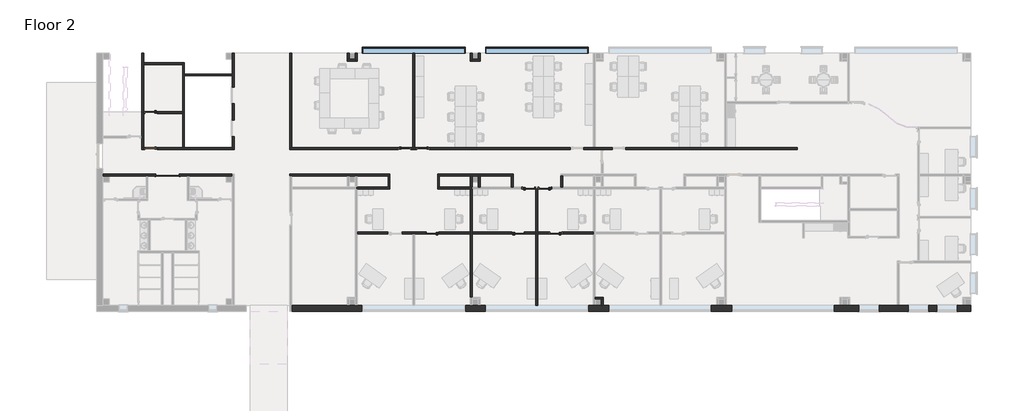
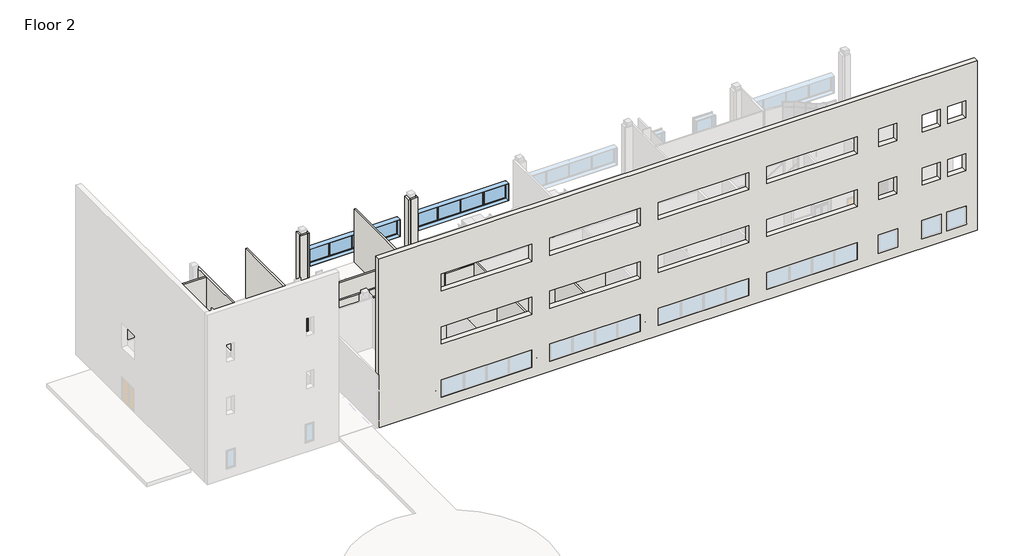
# One storey, part 2 of 6: 35 walls, 10 doors, 2 windows.
"""IFC4 building model written with IfcOpenShell, lengths in millimetres."""

from ifc_helpers import new_model, si_unit, frame, origin, place, context, project, spatial, polyline, outline, extrude, faceted_brep, transform, mapped, element, save
from components import door_f1125a27, door_36f17018, door_4cfbdd5f, door_4a7c4c71, window_casement_multi_sash_horizontal_25_x_5ft_0e5d08e3

model = new_model("IFC4")

# Units and contexts
model_context = context("Model", 3, world=origin())
ifc_project = project(units=[si_unit("LENGTHUNIT", "METRE", prefix="MILLI")], contexts=[model_context])

# Site, building, storey
site = spatial("IfcSite", under=ifc_project)
building = spatial("IfcBuilding", under=site)
storey = spatial("IfcBuildingStorey", under=building, Name="Floor 2", Elevation=5486.4)

# Doors
placement = place(None, origin())
door_shape = door_f1125a27(model_context)
element("IfcDoor", 1, ObjectType="Dbl Acting Dbl Glass 1 : 68\" x 84\"", at=placement, inside=storey, context=model_context, shape_type="MappedRepresentation", body=[
    mapped(door_shape, transform((1836.7692024, 48316.361889, 5486.4), x_axis=(-1.0, 0.0, 0.0), y_axis=(0.0, -1.0, 0.0), z_axis=(0.0, 0.0, 1.0))),
])
door_2_shape = door_36f17018(model_context)
element("IfcDoor", 2, ObjectType="Door-Passage-Single-Flush : 36\" x 84\"", at=placement, inside=storey, context=model_context, shape_type="MappedRepresentation", body=[
    mapped(door_2_shape, transform((617.5692024, 50253.111889, 5486.4), x_axis=(-1.0, 0.0, 0.0), y_axis=(0.0, -1.0, 0.0), z_axis=(0.0, 0.0, 1.0))),
])
element("IfcDoor", 3, ObjectType="Door-Passage-Single-Flush : 36\" x 84\"", at=placement, inside=storey, context=model_context, shape_type="MappedRepresentation", body=[
    mapped(door_2_shape, transform((617.5692024, 52945.511889, 5486.4), x_axis=(-1.0, 0.0, 0.0), y_axis=(0.0, -1.0, 0.0), z_axis=(0.0, 0.0, 1.0))),
])
door_3_shape = door_4cfbdd5f(model_context)
element("IfcDoor", 4, ObjectType="Door-Passage-Single-Full_Lite : 36\" x 84\"", at=placement, inside=storey, context=model_context, shape_type="MappedRepresentation", body=[
    mapped(door_3_shape, transform((27871.7692024, 43985.661889, 5486.4), x_axis=(1.0, 0.0, 0.0), y_axis=(0.0, 1.0, 0.0), z_axis=(0.0, 0.0, 1.0))),
])
element("IfcDoor", 5, ObjectType="Door-Passage-Single-Full_Lite : 36\" x 84\"", at=placement, inside=storey, context=model_context, shape_type="MappedRepresentation", body=[
    mapped(door_3_shape, transform((20810.5692024, 50253.111889, 5486.4), x_axis=(-1.0, 0.0, 0.0), y_axis=(0.0, -1.0, 0.0), z_axis=(0.0, 0.0, 1.0))),
])
element("IfcDoor", 6, ObjectType="Door-Passage-Single-Full_Lite : 36\" x 84\"", at=placement, inside=storey, context=model_context, shape_type="MappedRepresentation", body=[
    mapped(door_3_shape, transform((28659.1692024, 47338.461889, 5486.4), x_axis=(1.0, 0.0, 0.0), y_axis=(0.0, 1.0, 0.0), z_axis=(0.0, 0.0, 1.0))),
])
door_4_shape = door_4a7c4c71(model_context)
element("IfcDoor", 7, ObjectType="Door-Passage-Single-Full_Lite : 36\" x 84\"", at=placement, inside=storey, context=model_context, shape_type="MappedRepresentation", body=[
    mapped(door_4_shape, transform((30665.7692024, 43985.661889, 5486.4), x_axis=(-1.0, 0.0, 0.0), y_axis=(0.0, -1.0, 0.0), z_axis=(0.0, 0.0, 1.0))),
])
element("IfcDoor", 8, ObjectType="Door-Passage-Single-Full_Lite : 36\" x 84\"", at=placement, inside=storey, context=model_context, shape_type="MappedRepresentation", body=[
    mapped(door_4_shape, transform((21521.7692024, 43985.661889, 5486.4), x_axis=(-1.0, 0.0, 0.0), y_axis=(0.0, -1.0, 0.0), z_axis=(0.0, 0.0, 1.0))),
])
element("IfcDoor", 9, ObjectType="Door-Passage-Single-Full_Lite : 36\" x 84\"", at=placement, inside=storey, context=model_context, shape_type="MappedRepresentation", body=[
    mapped(door_4_shape, transform((19438.9692024, 50253.111889, 5486.4), x_axis=(1.0, 0.0, 0.0), y_axis=(0.0, 1.0, 0.0), z_axis=(0.0, 0.0, 1.0))),
])
element("IfcDoor", 10, ObjectType="Door-Passage-Single-Full_Lite : 36\" x 84\"", at=placement, inside=storey, context=model_context, shape_type="MappedRepresentation", body=[
    mapped(door_4_shape, transform((29878.3692024, 47338.461889, 5486.4), x_axis=(-1.0, 0.0, 0.0), y_axis=(0.0, -1.0, 0.0), z_axis=(0.0, 0.0, 1.0))),
])

# Walls
element("IfcWall", 11, ObjectType="Interior - 5 1/2\" Partition (1-hr)", at=placement, inside=storey, context=model_context, shape_type="Brep", body=[
    faceted_brep([(973.1692024, 48360.811889, 7620.0), (973.1692024, 48360.811889, 5486.4), (-2965.7977165, 48360.811889, 5486.4), (-2965.7977165, 48360.811889, 9906.0), (6637.3692024, 48360.811889, 9906.0), (6637.3692024, 48360.811889, 5486.4), (2700.3692024, 48360.811889, 5486.4), (2700.3692024, 48360.811889, 7620.0), (-2965.7977165, 48221.111889, 5486.4), (242.9192024, 48221.111889, 5486.4), (382.6192024, 48221.111889, 5486.4), (973.1692024, 48221.111889, 5486.4), (973.1692024, 48221.111889, 7620.0), (2700.3692024, 48221.111889, 7620.0), (2700.3692024, 48221.111889, 5486.4), (3290.9192024, 48221.111889, 5486.4), (3430.6192024, 48221.111889, 5486.4), (6637.3692024, 48221.111889, 5486.4), (6637.3692024, 48221.111889, 9906.0), (3430.6192024, 48221.111889, 9906.0), (3290.9192024, 48221.111889, 9906.0), (382.6192024, 48221.111889, 9906.0), (242.9192024, 48221.111889, 9906.0), (-2965.7977165, 48221.111889, 9906.0)], [[[0, 1, 2, 3, 4, 5, 6, 7]], [[8, 9, 10, 11, 12, 13, 14, 15, 16, 17, 18, 19, 20, 21, 22, 23]], [[2, 1, 11, 10, 9, 8]], [[6, 5, 17, 16, 15, 14]], [[5, 4, 18, 17]], [[3, 2, 8, 23]], [[4, 3, 23, 22, 21, 20, 19, 18]], [[12, 11, 1, 0]], [[13, 12, 0, 7]], [[14, 13, 7, 6]]]),
])
element("IfcWall", 12, ObjectType="Interior - 5 1/2\" Partition (1-hr)", at=placement, inside=storey, context=model_context, shape_type="Brep", body=[
    faceted_brep([(6637.3692024, 53605.911889, 7645.4), (6637.3692024, 53605.911889, 5486.4), (6637.3692024, 52399.411889, 5486.4), (6637.3692024, 52399.411889, 7645.4), (6637.3692024, 51167.511889, 7645.4), (6637.3692024, 51167.511889, 5486.4), (6637.3692024, 50329.311889, 5486.4), (6637.3692024, 50189.611889, 5486.4), (6637.3692024, 50189.611889, 9906.0), (6637.3692024, 50329.311889, 9906.0), (6637.3692024, 55676.011889, 9906.0), (6637.3692024, 55815.711889, 9906.0), (6637.3692024, 57366.699389, 9906.0), (6637.3692024, 57366.699389, 5486.4), (6637.3692024, 55815.711889, 5486.4), (6637.3692024, 55676.011889, 5486.4), (6637.3692024, 54837.811889, 5486.4), (6637.3692024, 54837.811889, 7645.4), (6777.0692024, 52399.411889, 5486.4), (6777.0692024, 53605.911889, 5486.4), (6777.0692024, 53605.911889, 7645.4), (6777.0692024, 54837.811889, 7645.4), (6777.0692024, 54837.811889, 5486.4), (6777.0692024, 57366.699389, 5486.4), (6777.0692024, 57366.699389, 9906.0), (6777.0692024, 50189.611889, 9906.0), (6777.0692024, 50189.611889, 5486.4), (6777.0692024, 51167.511889, 5486.4), (6777.0692024, 51167.511889, 7645.4), (6777.0692024, 52399.411889, 7645.4)], [[[0, 1, 2, 3, 4, 5, 6, 7, 8, 9, 10, 11, 12, 13, 14, 15, 16, 17]], [[18, 19, 20, 21, 22, 23, 24, 25, 26, 27, 28, 29]], [[7, 6, 5, 27, 26]], [[2, 1, 19, 18]], [[16, 15, 14, 13, 23, 22]], [[8, 7, 26, 25]], [[13, 12, 24, 23]], [[12, 11, 10, 9, 8, 25, 24]], [[28, 27, 5, 4]], [[29, 28, 4, 3]], [[18, 29, 3, 2]], [[20, 19, 1, 0]], [[21, 20, 0, 17]], [[22, 21, 17, 16]]]),
])
element("IfcWall", 13, ObjectType="Interior - 5 1/2\" Partition (1-hr)", at=placement, inside=storey, context=model_context, shape_type="Brep", body=[
    faceted_brep([(109.5692024, 50329.311889, 7721.6), (109.5692024, 50329.311889, 5486.4), (77.8192024, 50329.311889, 5486.4), (-61.8807976, 50329.311889, 5486.4), (-61.8807976, 50329.311889, 9906.0), (77.8192024, 50329.311889, 9906.0), (2954.3692024, 50329.311889, 9906.0), (3094.0692024, 50329.311889, 9906.0), (6637.3692024, 50329.311889, 9906.0), (6637.3692024, 50329.311889, 5486.4), (3094.0692024, 50329.311889, 5486.4), (2954.3692024, 50329.311889, 5486.4), (1125.5692024, 50329.311889, 5486.4), (1125.5692024, 50329.311889, 7721.6), (-61.8807976, 50189.611889, 5486.4), (109.5692024, 50189.611889, 5486.4), (109.5692024, 50189.611889, 7721.6), (1125.5692024, 50189.611889, 7721.6), (1125.5692024, 50189.611889, 5486.4), (6637.3692024, 50189.611889, 5486.4), (6637.3692024, 50189.611889, 9906.0), (-61.8807976, 50189.611889, 9906.0)], [[[0, 1, 2, 3, 4, 5, 6, 7, 8, 9, 10, 11, 12, 13]], [[14, 15, 16, 17, 18, 19, 20, 21]], [[3, 2, 1, 15, 14]], [[12, 11, 10, 9, 19, 18]], [[9, 8, 20, 19]], [[4, 3, 14, 21]], [[8, 7, 6, 5, 4, 21, 20]], [[16, 15, 1, 0]], [[17, 16, 0, 13]], [[18, 17, 13, 12]]]),
])
element("IfcWall", 14, ObjectType="Interior - 5 1/2\" Partition (1-hr)", at=placement, inside=storey, context=model_context, shape_type="Brep", body=[
    faceted_brep([(77.8192024, 50329.311889, 5486.4), (77.8192024, 52882.011889, 5486.4), (77.8192024, 53021.711889, 5486.4), (77.8192024, 56514.211889, 5486.4), (77.8192024, 56653.911889, 5486.4), (77.8192024, 57366.699389, 5486.4), (77.8192024, 57366.699389, 9906.0), (77.8192024, 56653.911889, 9906.0), (77.8192024, 56514.211889, 9906.0), (77.8192024, 53021.711889, 9906.0), (77.8192024, 52882.011889, 9906.0), (77.8192024, 50329.311889, 9906.0), (-61.8807976, 50329.311889, 5486.4), (-61.8807976, 50329.311889, 9906.0), (-61.8807976, 52970.911889, 9906.0), (-61.8807976, 56653.911889, 9906.0), (-61.8807976, 57366.699389, 9906.0), (-61.8807976, 57366.699389, 5486.4), (-61.8807976, 51192.911889, 5486.4), (-61.8807976, 51053.211889, 5486.4)], [[[0, 1, 2, 3, 4, 5, 6, 7, 8, 9, 10, 11]], [[12, 13, 14, 15, 16, 17, 18, 19]], [[5, 4, 3, 2, 1, 0, 12, 19, 18, 17]], [[0, 11, 13, 12]], [[6, 5, 17, 16]], [[7, 6, 16, 15]], [[11, 10, 9, 8, 7, 15, 14, 13]]]),
])
element("IfcWall", 15, ObjectType="Interior - 5 1/2\" Partition (1-hr)", at=placement, inside=storey, context=model_context, shape_type="Brep", body=[
    faceted_brep([(3094.0692024, 50329.311889, 5486.4), (3094.0692024, 55676.011889, 5486.4), (3094.0692024, 55815.711889, 5486.4), (3094.0692024, 56653.911889, 5486.4), (3094.0692024, 56653.911889, 9906.0), (3094.0692024, 55815.711889, 9906.0), (3094.0692024, 55676.011889, 9906.0), (3094.0692024, 50329.311889, 9906.0), (2954.3692024, 50329.311889, 5486.4), (2954.3692024, 50329.311889, 9906.0), (2954.3692024, 52882.011889, 9906.0), (2954.3692024, 53021.711889, 9906.0), (2954.3692024, 56514.211889, 9906.0), (2954.3692024, 56653.911889, 9906.0), (2954.3692024, 56653.911889, 5486.4), (2954.3692024, 56514.211889, 5486.4), (2954.3692024, 53021.711889, 5486.4), (2954.3692024, 52882.011889, 5486.4)], [[[0, 1, 2, 3, 4, 5, 6, 7]], [[8, 9, 10, 11, 12, 13, 14, 15, 16, 17]], [[3, 2, 1, 0, 8, 17, 16, 15, 14]], [[4, 3, 14, 13]], [[0, 7, 9, 8]], [[7, 6, 5, 4, 13, 12, 11, 10, 9]]]),
])
element("IfcWall", 16, ObjectType="Interior - 5 1/2\" Partition (1-hr)", at=placement, inside=storey, context=model_context, shape_type="SweptSolid", body=[
    extrude(outline(polyline([(77.8192024, 56653.911889), (2954.3692024, 56653.911889), (2954.3692024, 56514.211889), (77.8192024, 56514.211889), (77.8192024, 56653.911889)])), frame((0.0, 0.0, 5486.4), z_axis=(0.0, 0.0, 1.0), x_axis=(1.0, 0.0, 0.0)), (0.0, 0.0, 1.0), 4419.6),
])
element("IfcWall", 17, ObjectType="Interior - 5 1/2\" Partition (1-hr)", at=placement, inside=storey, context=model_context, shape_type="SweptSolid", body=[
    extrude(outline(polyline([(6637.3692024, 55676.011889), (3094.0692024, 55676.011889), (3094.0692024, 55815.711889), (6637.3692024, 55815.711889), (6637.3692024, 55676.011889)])), frame((0.0, 0.0, 5486.4), z_axis=(0.0, 0.0, 1.0), x_axis=(1.0, 0.0, 0.0)), (0.0, 0.0, 1.0), 4419.6),
])
element("IfcWall", 18, ObjectType="Interior - 5 1/2\" Partition (1-hr)", at=placement, inside=storey, context=model_context, shape_type="SweptSolid", body=[
    extrude(outline(polyline([(5486.4, 77.8192024), (5486.4, 109.5692024), (7721.6, 109.5692024), (7721.6, 1125.5692024), (5486.4, 1125.5692024), (5486.4, 2954.3692024), (9906.0, 2954.3692024), (9906.0, 77.8192024), (5486.4, 77.8192024)])), frame((0.0, 52882.011889, 0.0), z_axis=(0.0, 1.0, 0.0), x_axis=(0.0, 0.0, 1.0)), (0.0, 0.0, 1.0), 139.7),
])
element("IfcWall", 19, ObjectType="Interior - 5 1/2\" Partition (1-hr)", at=placement, inside=storey, context=model_context, shape_type="Brep", body=[
    faceted_brep([(10910.9192024, 48360.811889, 5486.4), (10910.9192024, 48360.811889, 9906.0), (18359.4692024, 48360.811889, 9906.0), (18359.4692024, 48360.811889, 5486.4), (10910.9192024, 48221.111889, 5486.4), (11050.6192024, 48221.111889, 5486.4), (15184.4692024, 48221.111889, 5486.4), (15324.1692024, 48221.111889, 5486.4), (15781.3692024, 48221.111889, 5486.4), (15921.0692024, 48221.111889, 5486.4), (18219.7692024, 48221.111889, 5486.4), (18359.4692024, 48221.111889, 5486.4), (18359.4692024, 48221.111889, 9906.0), (18219.7692024, 48221.111889, 9906.0), (15921.0692024, 48221.111889, 9906.0), (15781.3692024, 48221.111889, 9906.0), (15324.1692024, 48221.111889, 9906.0), (15184.4692024, 48221.111889, 9906.0), (10910.9192024, 48221.111889, 9906.0)], [[[0, 1, 2, 3]], [[4, 5, 6, 7, 8, 9, 10, 11, 12, 13, 14, 15, 16, 17, 18]], [[11, 10, 9, 8, 7, 6, 5, 4, 0, 3]], [[4, 18, 1, 0]], [[18, 17, 16, 15, 14, 13, 12, 2, 1]], [[12, 11, 3, 2]]]),
])
element("IfcWall", 20, ObjectType="Interior - 5 1/2\" Partition (1-hr)", at=placement, inside=storey, context=model_context, shape_type="Brep", body=[
    faceted_brep([(48623.5692024, 50189.611889, 9906.0), (48623.5692024, 50189.611889, 5486.4), (48623.5692024, 50329.311889, 5486.4), (48623.5692024, 50329.311889, 9906.0), (43353.0692024, 50329.311889, 5486.4), (43213.3692024, 50329.311889, 5486.4), (35879.1192024, 50329.311889, 5486.4), (35879.1192024, 50329.311889, 7721.6), (34863.1192024, 50329.311889, 7721.6), (34863.1192024, 50329.311889, 5486.4), (33612.1692024, 50329.311889, 5486.4), (33472.4692024, 50329.311889, 5486.4), (32748.5692024, 50329.311889, 5486.4), (32748.5692024, 50329.311889, 7721.6), (31732.5692024, 50329.311889, 7721.6), (31732.5692024, 50329.311889, 5486.4), (21318.5692024, 50329.311889, 5486.4), (21318.5692024, 50329.311889, 7721.6), (20302.5692024, 50329.311889, 7721.6), (20302.5692024, 50329.311889, 5486.4), (20194.6192024, 50329.311889, 5486.4), (20054.9192024, 50329.311889, 5486.4), (19946.9692024, 50329.311889, 5486.4), (19946.9692024, 50329.311889, 7721.6), (18930.9692024, 50329.311889, 7721.6), (18930.9692024, 50329.311889, 5486.4), (11050.6192024, 50329.311889, 5486.4), (10910.9192024, 50329.311889, 5486.4), (10910.9192024, 50329.311889, 9906.0), (11050.6192024, 50329.311889, 9906.0), (33472.4692024, 50329.311889, 9906.0), (33612.1692024, 50329.311889, 9906.0), (43213.3692024, 50329.311889, 9906.0), (43353.0692024, 50329.311889, 9906.0), (34209.0692024, 50189.611889, 9906.0), (34069.3692024, 50189.611889, 9906.0), (10910.9192024, 50189.611889, 9906.0), (10910.9192024, 50189.611889, 5486.4), (18930.9692024, 50189.611889, 5486.4), (18930.9692024, 50189.611889, 7721.6), (19946.9692024, 50189.611889, 7721.6), (19946.9692024, 50189.611889, 5486.4), (20302.5692024, 50189.611889, 5486.4), (20302.5692024, 50189.611889, 7721.6), (21318.5692024, 50189.611889, 7721.6), (21318.5692024, 50189.611889, 5486.4), (31732.5692024, 50189.611889, 5486.4), (31732.5692024, 50189.611889, 7721.6), (32748.5692024, 50189.611889, 7721.6), (32748.5692024, 50189.611889, 5486.4), (34069.3692024, 50189.611889, 5486.4), (34209.0692024, 50189.611889, 5486.4), (34863.1192024, 50189.611889, 5486.4), (34863.1192024, 50189.611889, 7721.6), (35879.1192024, 50189.611889, 7721.6), (35879.1192024, 50189.611889, 5486.4)], [[[0, 1, 2, 3]], [[3, 2, 4, 5, 6, 7, 8, 9, 10, 11, 12, 13, 14, 15, 16, 17, 18, 19, 20, 21, 22, 23, 24, 25, 26, 27, 28, 29, 30, 31, 32, 33]], [[1, 0, 34, 35, 36, 37, 38, 39, 40, 41, 42, 43, 44, 45, 46, 47, 48, 49, 50, 51, 52, 53, 54, 55]], [[2, 1, 55, 6, 5, 4]], [[37, 27, 26, 25, 38]], [[9, 52, 51, 50, 49, 12, 11, 10]], [[41, 22, 21, 20, 19, 42]], [[45, 16, 15, 46]], [[37, 36, 28, 27]], [[36, 35, 34, 0, 3, 33, 32, 31, 30, 29, 28]], [[8, 53, 52, 9]], [[53, 8, 7, 54]], [[54, 7, 6, 55]], [[40, 23, 22, 41]], [[23, 40, 39, 24]], [[24, 39, 38, 25]], [[18, 43, 42, 19]], [[43, 18, 17, 44]], [[44, 17, 16, 45]], [[48, 13, 12, 49]], [[13, 48, 47, 14]], [[14, 47, 46, 15]]]),
])
element("IfcWall", 21, ObjectType="Interior - 5 1/2\" Partition (1-hr)", at=placement, inside=storey, context=model_context, shape_type="SweptSolid", body=[
    extrude(outline(polyline([(11050.6192024, 57366.699389), (11050.6192024, 50329.311889), (10910.9192024, 50329.311889), (10910.9192024, 57366.699389), (11050.6192024, 57366.699389)])), frame((0.0, 0.0, 5486.4), z_axis=(0.0, 0.0, 1.0), x_axis=(1.0, 0.0, 0.0)), (0.0, 0.0, 1.0), 4419.6),
])
element("IfcWall", 22, ObjectType="Interior - 5 1/2\" Partition (1-hr)", at=placement, inside=storey, context=model_context, shape_type="Brep", body=[
    faceted_brep([(15781.3692024, 57366.699389, 5486.4), (15781.3692024, 57365.111889, 5486.4), (15781.3692024, 56907.911889, 5486.4), (15781.3692024, 56768.211889, 5486.4), (15781.3692024, 56768.211889, 9906.0), (15781.3692024, 56907.911889, 9906.0), (15781.3692024, 57366.699389, 9906.0), (15921.0692024, 57366.699389, 5486.4), (15921.0692024, 57366.699389, 9906.0), (15921.0692024, 56768.211889, 9906.0), (15921.0692024, 56768.211889, 5486.4)], [[[0, 1, 2, 3, 4, 5, 6]], [[7, 8, 9, 10]], [[3, 2, 1, 0, 7, 10]], [[4, 3, 10, 9]], [[0, 6, 8, 7]], [[6, 5, 4, 9, 8]]]),
])
element("IfcWall", 23, ObjectType="Interior - 5 1/2\" Partition (1-hr)", at=placement, inside=storey, context=model_context, shape_type="Brep", body=[
    faceted_brep([(15781.3692024, 56907.911889, 5486.4), (15324.1692024, 56907.911889, 5486.4), (15184.4692024, 56907.911889, 5486.4), (15184.4692024, 56907.911889, 9906.0), (15324.1692024, 56907.911889, 9906.0), (15781.3692024, 56907.911889, 9906.0), (15781.3692024, 56768.211889, 5486.4), (15781.3692024, 56768.211889, 9906.0), (15184.4692024, 56768.211889, 9906.0), (15184.4692024, 56768.211889, 5486.4)], [[[0, 1, 2, 3, 4, 5]], [[6, 7, 8, 9]], [[2, 1, 0, 6, 9]], [[3, 2, 9, 8]], [[0, 5, 7, 6]], [[5, 4, 3, 8, 7]]]),
])
element("IfcWall", 24, ObjectType="Interior - 5 1/2\" Partition (1-hr)", at=placement, inside=storey, context=model_context, shape_type="Brep", body=[
    faceted_brep([(15324.1692024, 56907.911889, 5486.4), (15324.1692024, 57365.111889, 5486.4), (15324.1692024, 57366.699389, 5486.4), (15324.1692024, 57366.699389, 9906.0), (15324.1692024, 56907.911889, 9906.0), (15184.4692024, 56907.911889, 5486.4), (15184.4692024, 56907.911889, 9906.0), (15184.4692024, 57366.699389, 9906.0), (15184.4692024, 57366.699389, 5486.4)], [[[0, 1, 2, 3, 4]], [[5, 6, 7, 8]], [[2, 1, 0, 5, 8]], [[0, 4, 6, 5]], [[3, 2, 8, 7]], [[4, 3, 7, 6]]]),
])
element("IfcWall", 25, ObjectType="Interior - 5 1/2\" Partition (1-hr)", at=placement, inside=storey, context=model_context, shape_type="Brep", body=[
    faceted_brep([(24468.1692024, 47401.961889, 5486.4), (24468.1692024, 47763.911889, 5486.4), (24468.1692024, 48221.111889, 5486.4), (24468.1692024, 48221.111889, 9906.0), (24468.1692024, 47401.961889, 9906.0), (24328.4692024, 47401.961889, 5486.4), (24328.4692024, 47401.961889, 9906.0), (24328.4692024, 48221.111889, 9906.0), (24328.4692024, 48221.111889, 5486.4), (24398.3192024, 47401.961889, 5486.4), (24398.3192024, 47401.961889, 9906.0)], [[[0, 1, 2, 3, 4]], [[5, 6, 7, 8]], [[2, 1, 0, 9, 5, 8]], [[0, 4, 10, 6, 5, 9]], [[3, 2, 8, 7]], [[4, 3, 7, 6, 10]]]),
])
element("IfcWall", 26, ObjectType="Interior - 5 1/2\" Partition (1-hr)", at=placement, inside=storey, context=model_context, shape_type="Brep", body=[
    faceted_brep([(25065.0692024, 47401.961889, 5486.4), (25065.0692024, 48221.111889, 5486.4), (25065.0692024, 48221.111889, 9906.0), (25065.0692024, 47401.961889, 9906.0), (24925.3692024, 47401.961889, 5486.4), (24925.3692024, 47401.961889, 9906.0), (24925.3692024, 48221.111889, 9906.0), (24925.3692024, 48221.111889, 5486.4), (24925.3692024, 47763.911889, 5486.4)], [[[0, 1, 2, 3]], [[4, 5, 6, 7, 8]], [[1, 0, 4, 8, 7]], [[0, 3, 5, 4]], [[2, 1, 7, 6]], [[3, 2, 6, 5]]]),
])
element("IfcWall", 27, ObjectType="Interior - 5 1/2\" Partition (1-hr)", at=placement, inside=storey, context=model_context, shape_type="SweptSolid", body=[
    extrude(outline(polyline([(18359.4692024, 48221.111889), (18359.4692024, 47401.961889), (18219.7692024, 47401.961889), (18219.7692024, 48221.111889), (18359.4692024, 48221.111889)])), frame((0.0, 0.0, 5486.4), z_axis=(0.0, 0.0, 1.0), x_axis=(1.0, 0.0, 0.0)), (0.0, 0.0, 1.0), 4419.6),
])
element("IfcWall", 28, ObjectType="Interior - 5 1/2\" Partition (1-hr)", at=placement, inside=storey, context=model_context, shape_type="SweptSolid", body=[
    extrude(outline(polyline([(22029.7692024, 48221.111889), (22029.7692024, 47401.961889), (21890.0692024, 47401.961889), (21890.0692024, 48221.111889), (22029.7692024, 48221.111889)])), frame((0.0, 0.0, 5486.4), z_axis=(0.0, 0.0, 1.0), x_axis=(1.0, 0.0, 0.0)), (0.0, 0.0, 1.0), 4419.6),
])
element("IfcWall", 29, ObjectType="Interior - 5 1/2\" Partition (1-hr)", at=placement, inside=storey, context=model_context, shape_type="SweptSolid", body=[
    extrude(outline(polyline([(27503.4692024, 48221.111889), (27503.4692024, 47401.961889), (27363.7692024, 47401.961889), (27363.7692024, 48221.111889), (27503.4692024, 48221.111889)])), frame((0.0, 0.0, 5486.4), z_axis=(0.0, 0.0, 1.0), x_axis=(1.0, 0.0, 0.0)), (0.0, 0.0, 1.0), 4419.6),
])
element("IfcWall", 30, ObjectType="Interior - 5 1/2\" Partition (1-hr)", at=placement, inside=storey, context=model_context, shape_type="SweptSolid", body=[
    extrude(outline(polyline([(31173.7692024, 48221.111889), (31173.7692024, 47401.961889), (31034.0692024, 47401.961889), (31034.0692024, 48221.111889), (31173.7692024, 48221.111889)])), frame((0.0, 0.0, 5486.4), z_axis=(0.0, 0.0, 1.0), x_axis=(1.0, 0.0, 0.0)), (0.0, 0.0, 1.0), 4419.6),
])
element("IfcWall", 31, ObjectType="Interior - 5 1/2\" Partition (1-hr)", at=placement, inside=storey, context=model_context, shape_type="Brep", body=[
    faceted_brep([(33612.1692024, 39077.111889, 5486.4), (34069.3692024, 39077.111889, 5486.4), (34209.0692024, 39077.111889, 5486.4), (34209.0692024, 39077.111889, 9906.0), (34069.3692024, 39077.111889, 9906.0), (33612.1692024, 39077.111889, 9906.0), (33612.1692024, 39216.811889, 5486.4), (33612.1692024, 39216.811889, 9906.0), (34209.0692024, 39216.811889, 9906.0), (34209.0692024, 39216.811889, 5486.4)], [[[0, 1, 2, 3, 4, 5]], [[6, 7, 8, 9]], [[2, 1, 0, 6, 9]], [[3, 2, 9, 8]], [[0, 5, 7, 6]], [[5, 4, 3, 8, 7]]]),
])
element("IfcWall", 32, ObjectType="Interior - 5 1/2\" Partition (1-hr)", at=placement, inside=storey, context=model_context, shape_type="Brep", body=[
    faceted_brep([(34069.3692024, 39077.111889, 5486.4), (34069.3692024, 38619.911889, 5486.4), (34069.3692024, 38618.324389, 5486.4), (34069.3692024, 38618.324389, 9906.0), (34069.3692024, 39077.111889, 9906.0), (34209.0692024, 39077.111889, 5486.4), (34209.0692024, 39077.111889, 9906.0), (34209.0692024, 38618.324389, 9906.0), (34209.0692024, 38618.324389, 5486.4)], [[[0, 1, 2, 3, 4]], [[5, 6, 7, 8]], [[2, 1, 0, 5, 8]], [[0, 4, 6, 5]], [[3, 2, 8, 7]], [[4, 3, 7, 6]]]),
])
element("IfcWall", 33, ObjectType="Interior - 5 1/2\" Partition (1-hr)", at=placement, inside=storey, context=model_context, shape_type="Brep", body=[
    faceted_brep([(24328.4692024, 57366.699389, 5486.4), (24328.4692024, 56768.211889, 5486.4), (24328.4692024, 56768.211889, 9906.0), (24328.4692024, 57366.699389, 9906.0), (24468.1692024, 57366.699389, 5486.4), (24468.1692024, 57366.699389, 9906.0), (24468.1692024, 56907.911889, 9906.0), (24468.1692024, 56768.211889, 9906.0), (24468.1692024, 56768.211889, 5486.4), (24468.1692024, 56907.911889, 5486.4), (24468.1692024, 57365.111889, 5486.4)], [[[0, 1, 2, 3]], [[4, 5, 6, 7, 8, 9, 10]], [[1, 0, 4, 10, 9, 8]], [[2, 1, 8, 7]], [[0, 3, 5, 4]], [[3, 2, 7, 6, 5]]]),
])
element("IfcWall", 34, ObjectType="Interior - 5 1/2\" Partition (1-hr)", at=placement, inside=storey, context=model_context, shape_type="Brep", body=[
    faceted_brep([(24468.1692024, 56768.211889, 5486.4), (25065.0692024, 56768.211889, 5486.4), (25065.0692024, 56768.211889, 9906.0), (24468.1692024, 56768.211889, 9906.0), (24468.1692024, 56907.911889, 5486.4), (24468.1692024, 56907.911889, 9906.0), (24925.3692024, 56907.911889, 9906.0), (25065.0692024, 56907.911889, 9906.0), (25065.0692024, 56907.911889, 5486.4), (24925.3692024, 56907.911889, 5486.4)], [[[0, 1, 2, 3]], [[4, 5, 6, 7, 8, 9]], [[1, 0, 4, 9, 8]], [[2, 1, 8, 7]], [[0, 3, 5, 4]], [[3, 2, 7, 6, 5]]]),
])
element("IfcWall", 35, ObjectType="Interior - 5 1/2\" Partition (1-hr)", at=placement, inside=storey, context=model_context, shape_type="Brep", body=[
    faceted_brep([(25065.0692024, 56907.911889, 5486.4), (25065.0692024, 57366.699389, 5486.4), (25065.0692024, 57366.699389, 9906.0), (25065.0692024, 56907.911889, 9906.0), (24925.3692024, 56907.911889, 5486.4), (24925.3692024, 56907.911889, 9906.0), (24925.3692024, 57366.699389, 9906.0), (24925.3692024, 57366.699389, 5486.4), (24925.3692024, 57365.111889, 5486.4)], [[[0, 1, 2, 3]], [[4, 5, 6, 7, 8]], [[1, 0, 4, 8, 7]], [[0, 3, 5, 4]], [[2, 1, 7, 6]], [[3, 2, 6, 5]]]),
])
element("IfcWall", 36, ObjectType="Interior - 5 1/2\" Partition (1-hr)", at=placement, inside=storey, context=model_context, shape_type="Brep", body=[
    faceted_brep([(24328.4692024, 47262.261889, 10210.8), (24328.4692024, 44049.161889, 10210.8), (24328.4692024, 43909.461889, 10210.8), (24328.4692024, 39216.811889, 10210.8), (24468.1692024, 39216.811889, 10210.8), (24468.1692024, 43909.461889, 10210.8), (24468.1692024, 44049.161889, 10210.8), (24468.1692024, 47262.261889, 10210.8), (24468.1692024, 47262.261889, 5486.4), (24468.1692024, 39216.811889, 9906.0), (24468.1692024, 39216.811889, 5486.4), (24468.1692024, 43909.461889, 5486.4), (24468.1692024, 44049.161889, 5486.4), (24328.4692024, 47262.261889, 5486.4), (24328.4692024, 44049.161889, 5486.4), (24328.4692024, 43909.461889, 5486.4), (24328.4692024, 39216.811889, 5486.4), (24328.4692024, 39216.811889, 9906.0), (24398.3192024, 47262.261889, 5486.4)], [[[0, 1, 2, 3, 4, 5, 6, 7]], [[8, 7, 6, 5, 4, 9, 10, 11, 12]], [[13, 14, 15, 16, 17, 3, 2, 1, 0]], [[16, 15, 14, 13, 18, 8, 12, 11, 10]], [[13, 0, 7, 8, 18]], [[3, 17, 16, 10, 9, 4]]]),
])
element("IfcWall", 37, ObjectType="Interior - 5 1/2\" Partition (1-hr)", at=placement, inside=storey, context=model_context, shape_type="Brep", body=[
    faceted_brep([(29198.9192024, 47262.261889, 5486.4), (29198.9192024, 44049.161889, 5486.4), (29198.9192024, 43909.461889, 5486.4), (29198.9192024, 38618.324389, 5486.4), (29198.9192024, 38618.324389, 10210.8), (29198.9192024, 43909.461889, 10210.8), (29198.9192024, 44049.161889, 10210.8), (29198.9192024, 47262.261889, 10210.8), (29338.6192024, 47262.261889, 5486.4), (29338.6192024, 47262.261889, 10210.8), (29338.6192024, 44049.161889, 10210.8), (29338.6192024, 43909.461889, 10210.8), (29338.6192024, 38618.324389, 10210.8), (29338.6192024, 38618.324389, 5486.4), (29338.6192024, 43909.461889, 5486.4), (29338.6192024, 44049.161889, 5486.4)], [[[0, 1, 2, 3, 4, 5, 6, 7]], [[8, 9, 10, 11, 12, 13, 14, 15]], [[3, 2, 1, 0, 8, 15, 14, 13]], [[7, 6, 5, 4, 12, 11, 10, 9]], [[0, 7, 9, 8]], [[4, 3, 13, 12]]]),
])
element("IfcWall", 38, ObjectType="Interior - 5 1/2\" Partition (1-hr)", at=placement, inside=storey, context=model_context, shape_type="SweptSolid", body=[
    extrude(outline(polyline([(7721.6, 28379.7692024), (5486.4, 28379.7692024), (5486.4, 29198.9192024), (10210.8, 29198.9192024), (10210.8, 24468.1692024), (5486.4, 24468.1692024), (5486.4, 27363.7692024), (7721.6, 27363.7692024), (7721.6, 28379.7692024)])), frame((0.0, 43909.461889, 0.0), z_axis=(0.0, 1.0, 0.0), x_axis=(0.0, 0.0, 1.0)), (0.0, 0.0, 1.0), 139.7),
])
element("IfcWall", 39, ObjectType="Interior - 5 1/2\" Partition (1-hr)", at=placement, inside=storey, context=model_context, shape_type="SweptSolid", body=[
    extrude(outline(polyline([(5486.4, 29338.6192024), (5486.4, 30157.7692024), (7721.6, 30157.7692024), (7721.6, 31173.7692024), (5486.4, 31173.7692024), (5486.4, 33472.4692024), (10210.8, 33472.4692024), (10210.8, 29338.6192024), (5486.4, 29338.6192024)])), frame((0.0, 43909.461889, 0.0), z_axis=(0.0, 1.0, 0.0), x_axis=(0.0, 0.0, 1.0)), (0.0, 0.0, 1.0), 139.7),
])
element("IfcWall", 40, ObjectType="Interior - 5 1/2\" Partition (1-hr)", at=placement, inside=storey, context=model_context, shape_type="SweptSolid", body=[
    extrude(outline(polyline([(20194.6192024, 57366.699389), (20194.6192024, 50329.311889), (20054.9192024, 50329.311889), (20054.9192024, 57366.699389), (20194.6192024, 57366.699389)])), frame((0.0, 0.0, 5486.4), z_axis=(0.0, 0.0, 1.0), x_axis=(1.0, 0.0, 0.0)), (0.0, 0.0, 1.0), 4724.4),
])
element("IfcWall", 41, ObjectType="Interior - 5 1/2\" Partition (1-hr)", at=placement, inside=storey, context=model_context, shape_type="Brep", body=[
    faceted_brep([(15921.0692024, 43909.461889, 10210.8), (20054.9192024, 43909.461889, 10210.8), (20194.6192024, 43909.461889, 10210.8), (24328.4692024, 43909.461889, 10210.8), (24328.4692024, 44049.161889, 10210.8), (15921.0692024, 44049.161889, 10210.8), (24328.4692024, 44049.161889, 5486.4), (22029.7692024, 44049.161889, 5486.4), (22029.7692024, 44049.161889, 7721.6), (21013.7692024, 44049.161889, 7721.6), (21013.7692024, 44049.161889, 5486.4), (19235.7692024, 44049.161889, 5486.4), (19235.7692024, 44049.161889, 7721.6), (18219.7692024, 44049.161889, 7721.6), (18219.7692024, 44049.161889, 5486.4), (15921.0692024, 44049.161889, 5486.4), (15921.0692024, 43909.461889, 5486.4), (18219.7692024, 43909.461889, 5486.4), (18219.7692024, 43909.461889, 7721.6), (19235.7692024, 43909.461889, 7721.6), (19235.7692024, 43909.461889, 5486.4), (20054.9192024, 43909.461889, 5486.4), (20194.6192024, 43909.461889, 5486.4), (21013.7692024, 43909.461889, 5486.4), (21013.7692024, 43909.461889, 7721.6), (22029.7692024, 43909.461889, 7721.6), (22029.7692024, 43909.461889, 5486.4), (24328.4692024, 43909.461889, 5486.4)], [[[0, 1, 2, 3, 4, 5]], [[5, 4, 6, 7, 8, 9, 10, 11, 12, 13, 14, 15]], [[3, 2, 1, 0, 16, 17, 18, 19, 20, 21, 22, 23, 24, 25, 26, 27]], [[6, 27, 26, 7]], [[16, 15, 14, 17]], [[10, 23, 22, 21, 20, 11]], [[3, 27, 6, 4]], [[16, 0, 5, 15]], [[24, 23, 10, 9]], [[25, 24, 9, 8]], [[26, 25, 8, 7]], [[19, 12, 11, 20]], [[12, 19, 18, 13]], [[13, 18, 17, 14]]]),
])
element("IfcWall", 42, ObjectType="Interior - 5 1/2\" Partition (1-hr)", at=placement, inside=storey, context=model_context, shape_type="Brep", body=[
    faceted_brep([(15851.2192024, 47401.961889, 9906.0), (15851.2192024, 47401.961889, 5486.4), (15851.2192024, 47262.261889, 5486.4), (15851.2192024, 47262.261889, 9906.0), (18359.4692024, 47401.961889, 5486.4), (18219.7692024, 47401.961889, 5486.4), (15921.0692024, 47401.961889, 5486.4), (15921.0692024, 47401.961889, 9906.0), (18219.7692024, 47401.961889, 9906.0), (18359.4692024, 47401.961889, 9906.0), (18359.4692024, 47262.261889, 5486.4), (18359.4692024, 47262.261889, 9906.0), (15921.0692024, 47262.261889, 9906.0), (15921.0692024, 47262.261889, 5486.4)], [[[0, 1, 2, 3]], [[4, 5, 6, 1, 0, 7, 8, 9]], [[10, 11, 12, 3, 2, 13]], [[1, 6, 5, 4, 10, 13, 2]], [[9, 8, 7, 0, 3, 12, 11]], [[4, 9, 11, 10]]]),
])
element("IfcWall", 43, ObjectType="Interior - 5 1/2\" Partition (1-hr)", at=placement, inside=storey, context=model_context, shape_type="Brep", body=[
    faceted_brep([(21890.0692024, 48360.811889, 5486.4), (21890.0692024, 48360.811889, 9906.0), (27503.4692024, 48360.811889, 9906.0), (27503.4692024, 48360.811889, 5486.4), (21890.0692024, 48221.111889, 5486.4), (22029.7692024, 48221.111889, 5486.4), (24328.4692024, 48221.111889, 5486.4), (24468.1692024, 48221.111889, 5486.4), (24925.3692024, 48221.111889, 5486.4), (25065.0692024, 48221.111889, 5486.4), (27363.7692024, 48221.111889, 5486.4), (27503.4692024, 48221.111889, 5486.4), (27503.4692024, 48221.111889, 9906.0), (27363.7692024, 48221.111889, 9906.0), (25065.0692024, 48221.111889, 9906.0), (24925.3692024, 48221.111889, 9906.0), (24468.1692024, 48221.111889, 9906.0), (24328.4692024, 48221.111889, 9906.0), (22029.7692024, 48221.111889, 9906.0), (21890.0692024, 48221.111889, 9906.0)], [[[0, 1, 2, 3]], [[4, 5, 6, 7, 8, 9, 10, 11, 12, 13, 14, 15, 16, 17, 18, 19]], [[11, 10, 9, 8, 7, 6, 5, 4, 0, 3]], [[19, 18, 17, 16, 15, 14, 13, 12, 2, 1]], [[4, 19, 1, 0]], [[12, 11, 3, 2]]]),
])
element("IfcWall", 44, ObjectType="Interior - 5 1/2\" Partition (1-hr)", at=placement, inside=storey, context=model_context, shape_type="Brep", body=[
    faceted_brep([(24398.3192024, 47401.961889, 5486.4), (24398.3192024, 47401.961889, 9906.0), (24398.3192024, 47262.261889, 9906.0), (24398.3192024, 47262.261889, 5486.4), (21890.0692024, 47262.261889, 9906.0), (21890.0692024, 47262.261889, 5486.4), (24328.4692024, 47262.261889, 5486.4), (24328.4692024, 47401.961889, 5486.4), (22029.7692024, 47401.961889, 5486.4), (21890.0692024, 47401.961889, 5486.4), (21890.0692024, 47401.961889, 9906.0), (22029.7692024, 47401.961889, 9906.0), (24328.4692024, 47401.961889, 9906.0)], [[[0, 1, 2, 3]], [[3, 2, 4, 5, 6]], [[0, 7, 8, 9, 10, 11, 12, 1]], [[9, 8, 7, 0, 3, 6, 5]], [[1, 12, 11, 10, 4, 2]], [[10, 9, 5, 4]]]),
])
element("IfcWall", 45, ObjectType="Stone on CMU", at=placement, inside=storey, context=model_context, shape_type="Brep", body=[
    faceted_brep([(61502.9567024, 38618.324389, 20574.0), (11050.6192024, 38618.324389, 20574.0), (11050.6192024, 38164.299389, 20574.0), (61502.9567024, 38164.299389, 20574.0), (61502.9567024, 38618.324389, 5486.4), (61044.1692024, 38618.324389, 5486.4), (60904.4692024, 38618.324389, 5486.4), (56172.1317024, 38618.324389, 5486.4), (56048.3067024, 38618.324389, 5486.4), (52497.0692024, 38618.324389, 5486.4), (52357.3692024, 38618.324389, 5486.4), (51900.1692024, 38618.324389, 5486.4), (51760.4692024, 38618.324389, 5486.4), (51444.5567024, 38618.324389, 5486.4), (43353.0692024, 38618.324389, 5486.4), (43213.3692024, 38618.324389, 5486.4), (42756.1692024, 38618.324389, 5486.4), (42616.4692024, 38618.324389, 5486.4), (38533.4192024, 38618.324389, 5486.4), (38393.7192024, 38618.324389, 5486.4), (34209.0692024, 38618.324389, 5486.4), (34069.3692024, 38618.324389, 5486.4), (33612.1692024, 38618.324389, 5486.4), (33472.4692024, 38618.324389, 5486.4), (29338.6192024, 38618.324389, 5486.4), (29198.9192024, 38618.324389, 5486.4), (25065.0692024, 38618.324389, 5486.4), (24925.3692024, 38618.324389, 5486.4), (24468.1692024, 38618.324389, 5486.4), (24328.4692024, 38618.324389, 5486.4), (20194.6192024, 38618.324389, 5486.4), (20054.9192024, 38618.324389, 5486.4), (15921.0692024, 38618.324389, 5486.4), (15781.3692024, 38618.324389, 5486.4), (15324.1692024, 38618.324389, 5486.4), (15184.4692024, 38618.324389, 5486.4), (11050.6192024, 38618.324389, 5486.4), (58980.4192024, 38618.324389, 7924.8), (58980.4192024, 38618.324389, 6400.8), (60504.4192024, 38618.324389, 6400.8), (60504.4192024, 38618.324389, 7924.8), (56846.8192024, 38618.324389, 7924.8), (56846.8192024, 38618.324389, 6400.8), (58370.8192024, 38618.324389, 6400.8), (58370.8192024, 38618.324389, 7924.8), (53189.2192024, 38618.324389, 7924.8), (53189.2192024, 38618.324389, 6400.8), (54713.2192024, 38618.324389, 6400.8), (54713.2192024, 38618.324389, 7924.8), (58980.4192024, 38618.324389, 12649.2), (58980.4192024, 38618.324389, 11125.2), (60504.4192024, 38618.324389, 11125.2), (60504.4192024, 38618.324389, 12649.2), (56846.8192024, 38618.324389, 12649.2), (56846.8192024, 38618.324389, 11125.2), (58370.8192024, 38618.324389, 11125.2), (58370.8192024, 38618.324389, 12649.2), (53189.2192024, 38618.324389, 12649.2), (53189.2192024, 38618.324389, 11125.2), (54713.2192024, 38618.324389, 11125.2), (54713.2192024, 38618.324389, 12649.2), (58980.4192024, 38618.324389, 17373.6), (58980.4192024, 38618.324389, 15849.6), (60504.4192024, 38618.324389, 15849.6), (60504.4192024, 38618.324389, 17373.6), (56846.8192024, 38618.324389, 17373.6), (56846.8192024, 38618.324389, 15849.6), (58370.8192024, 38618.324389, 15849.6), (58370.8192024, 38618.324389, 17373.6), (53189.2192024, 38618.324389, 17373.6), (53189.2192024, 38618.324389, 15849.6), (54713.2192024, 38618.324389, 15849.6), (54713.2192024, 38618.324389, 17373.6), (43746.7692024, 38618.324389, 17373.6), (43746.7692024, 38618.324389, 15849.6), (51366.7692024, 38618.324389, 15849.6), (51366.7692024, 38618.324389, 17373.6), (43746.7692024, 38618.324389, 12649.2), (43746.7692024, 38618.324389, 11125.2), (51366.7692024, 38618.324389, 11125.2), (51366.7692024, 38618.324389, 12649.2), (43746.7692024, 38618.324389, 7924.8), (43746.7692024, 38618.324389, 6400.8), (51366.7692024, 38618.324389, 6400.8), (51366.7692024, 38618.324389, 7924.8), (34602.7692024, 38618.324389, 17373.6), (34602.7692024, 38618.324389, 15849.6), (42222.7692024, 38618.324389, 15849.6), (42222.7692024, 38618.324389, 17373.6), (34602.7692024, 38618.324389, 12649.2), (34602.7692024, 38618.324389, 11125.2), (42222.7692024, 38618.324389, 11125.2), (42222.7692024, 38618.324389, 12649.2), (34602.7692024, 38618.324389, 7924.8), (34602.7692024, 38618.324389, 6400.8), (42222.7692024, 38618.324389, 6400.8), (42222.7692024, 38618.324389, 7924.8), (25458.7692024, 38618.324389, 17373.6), (25458.7692024, 38618.324389, 15849.6), (33078.7692024, 38618.324389, 15849.6), (33078.7692024, 38618.324389, 17373.6), (25458.7692024, 38618.324389, 12649.2), (25458.7692024, 38618.324389, 11125.2), (33078.7692024, 38618.324389, 11125.2), (33078.7692024, 38618.324389, 12649.2), (25458.7692024, 38618.324389, 7924.8), (25458.7692024, 38618.324389, 6400.8), (33078.7692024, 38618.324389, 6400.8), (33078.7692024, 38618.324389, 7924.8), (16314.7692024, 38618.324389, 17373.6), (16314.7692024, 38618.324389, 15849.6), (23934.7692024, 38618.324389, 15849.6), (23934.7692024, 38618.324389, 17373.6), (16314.7692024, 38618.324389, 12649.2), (16314.7692024, 38618.324389, 11125.2), (23934.7692024, 38618.324389, 11125.2), (23934.7692024, 38618.324389, 12649.2), (16314.7692024, 38618.324389, 7924.8), (16314.7692024, 38618.324389, 6400.8), (23934.7692024, 38618.324389, 6400.8), (23934.7692024, 38618.324389, 7924.8), (61502.9567024, 38164.299389, 5486.4), (11050.6192024, 38164.299389, 10210.8), (11050.6192024, 38164.299389, 5486.4), (51444.5567024, 38164.299389, 5486.4), (58980.4192024, 38164.299389, 7924.8), (60504.4192024, 38164.299389, 7924.8), (60504.4192024, 38164.299389, 6400.8), (58980.4192024, 38164.299389, 6400.8), (56846.8192024, 38164.299389, 7924.8), (58370.8192024, 38164.299389, 7924.8), (58370.8192024, 38164.299389, 6400.8), (56846.8192024, 38164.299389, 6400.8), (53189.2192024, 38164.299389, 7924.8), (54713.2192024, 38164.299389, 7924.8), (54713.2192024, 38164.299389, 6400.8), (53189.2192024, 38164.299389, 6400.8), (58980.4192024, 38164.299389, 12649.2), (60504.4192024, 38164.299389, 12649.2), (60504.4192024, 38164.299389, 11125.2), (58980.4192024, 38164.299389, 11125.2), (56846.8192024, 38164.299389, 12649.2), (58370.8192024, 38164.299389, 12649.2), (58370.8192024, 38164.299389, 11125.2), (56846.8192024, 38164.299389, 11125.2), (53189.2192024, 38164.299389, 12649.2), (54713.2192024, 38164.299389, 12649.2), (54713.2192024, 38164.299389, 11125.2), (53189.2192024, 38164.299389, 11125.2), (58980.4192024, 38164.299389, 17373.6), (60504.4192024, 38164.299389, 17373.6), (60504.4192024, 38164.299389, 15849.6), (58980.4192024, 38164.299389, 15849.6), (56846.8192024, 38164.299389, 17373.6), (58370.8192024, 38164.299389, 17373.6), (58370.8192024, 38164.299389, 15849.6), (56846.8192024, 38164.299389, 15849.6), (53189.2192024, 38164.299389, 17373.6), (54713.2192024, 38164.299389, 17373.6), (54713.2192024, 38164.299389, 15849.6), (53189.2192024, 38164.299389, 15849.6), (43746.7692024, 38164.299389, 17373.6), (51366.7692024, 38164.299389, 17373.6), (51366.7692024, 38164.299389, 15849.6), (43746.7692024, 38164.299389, 15849.6), (43746.7692024, 38164.299389, 12649.2), (51366.7692024, 38164.299389, 12649.2), (51366.7692024, 38164.299389, 11125.2), (43746.7692024, 38164.299389, 11125.2), (43746.7692024, 38164.299389, 7924.8), (51366.7692024, 38164.299389, 7924.8), (51366.7692024, 38164.299389, 6400.8), (43746.7692024, 38164.299389, 6400.8), (34602.7692024, 38164.299389, 17373.6), (42222.7692024, 38164.299389, 17373.6), (42222.7692024, 38164.299389, 15849.6), (34602.7692024, 38164.299389, 15849.6), (34602.7692024, 38164.299389, 12649.2), (42222.7692024, 38164.299389, 12649.2), (42222.7692024, 38164.299389, 11125.2), (34602.7692024, 38164.299389, 11125.2), (34602.7692024, 38164.299389, 7924.8), (42222.7692024, 38164.299389, 7924.8), (42222.7692024, 38164.299389, 6400.8), (34602.7692024, 38164.299389, 6400.8), (25458.7692024, 38164.299389, 17373.6), (33078.7692024, 38164.299389, 17373.6), (33078.7692024, 38164.299389, 15849.6), (25458.7692024, 38164.299389, 15849.6), (25458.7692024, 38164.299389, 12649.2), (33078.7692024, 38164.299389, 12649.2), (33078.7692024, 38164.299389, 11125.2), (25458.7692024, 38164.299389, 11125.2), (25458.7692024, 38164.299389, 7924.8), (33078.7692024, 38164.299389, 7924.8), (33078.7692024, 38164.299389, 6400.8), (25458.7692024, 38164.299389, 6400.8), (16314.7692024, 38164.299389, 17373.6), (23934.7692024, 38164.299389, 17373.6), (23934.7692024, 38164.299389, 15849.6), (16314.7692024, 38164.299389, 15849.6), (16314.7692024, 38164.299389, 12649.2), (23934.7692024, 38164.299389, 12649.2), (23934.7692024, 38164.299389, 11125.2), (16314.7692024, 38164.299389, 11125.2), (16314.7692024, 38164.299389, 7924.8), (23934.7692024, 38164.299389, 7924.8), (23934.7692024, 38164.299389, 6400.8), (16314.7692024, 38164.299389, 6400.8)], [[[0, 1, 2, 3]], [[4, 5, 6, 7, 8, 9, 10, 11, 12, 13, 14, 15, 16, 17, 18, 19, 20, 21, 22, 23, 24, 25, 26, 27, 28, 29, 30, 31, 32, 33, 34, 35, 36, 1, 0], [37, 38, 39, 40], [41, 42, 43, 44], [45, 46, 47, 48], [49, 50, 51, 52], [53, 54, 55, 56], [57, 58, 59, 60], [61, 62, 63, 64], [65, 66, 67, 68], [69, 70, 71, 72], [73, 74, 75, 76], [77, 78, 79, 80], [81, 82, 83, 84], [85, 86, 87, 88], [89, 90, 91, 92], [93, 94, 95, 96], [97, 98, 99, 100], [101, 102, 103, 104], [105, 106, 107, 108], [109, 110, 111, 112], [113, 114, 115, 116], [117, 118, 119, 120]], [[121, 3, 2, 122, 123, 124], [125, 126, 127, 128], [129, 130, 131, 132], [133, 134, 135, 136], [137, 138, 139, 140], [141, 142, 143, 144], [145, 146, 147, 148], [149, 150, 151, 152], [153, 154, 155, 156], [157, 158, 159, 160], [161, 162, 163, 164], [165, 166, 167, 168], [169, 170, 171, 172], [173, 174, 175, 176], [177, 178, 179, 180], [181, 182, 183, 184], [185, 186, 187, 188], [189, 190, 191, 192], [193, 194, 195, 196], [197, 198, 199, 200], [201, 202, 203, 204], [205, 206, 207, 208]], [[36, 35, 34, 33, 32, 31, 30, 29, 28, 27, 26, 25, 24, 23, 22, 21, 20, 19, 18, 17, 16, 15, 14, 13, 12, 11, 10, 9, 8, 7, 6, 5, 4, 121, 124, 123]], [[4, 0, 3, 121]], [[1, 36, 123, 122, 2]], [[38, 37, 125, 128]], [[39, 38, 128, 127]], [[40, 39, 127, 126]], [[37, 40, 126, 125]], [[42, 41, 129, 132]], [[43, 42, 132, 131]], [[44, 43, 131, 130]], [[41, 44, 130, 129]], [[46, 45, 133, 136]], [[47, 46, 136, 135]], [[48, 47, 135, 134]], [[45, 48, 134, 133]], [[50, 49, 137, 140]], [[51, 50, 140, 139]], [[52, 51, 139, 138]], [[49, 52, 138, 137]], [[54, 53, 141, 144]], [[55, 54, 144, 143]], [[56, 55, 143, 142]], [[53, 56, 142, 141]], [[58, 57, 145, 148]], [[59, 58, 148, 147]], [[60, 59, 147, 146]], [[57, 60, 146, 145]], [[62, 61, 149, 152]], [[63, 62, 152, 151]], [[64, 63, 151, 150]], [[61, 64, 150, 149]], [[66, 65, 153, 156]], [[67, 66, 156, 155]], [[68, 67, 155, 154]], [[65, 68, 154, 153]], [[70, 69, 157, 160]], [[71, 70, 160, 159]], [[72, 71, 159, 158]], [[69, 72, 158, 157]], [[74, 73, 161, 164]], [[75, 74, 164, 163]], [[76, 75, 163, 162]], [[73, 76, 162, 161]], [[78, 77, 165, 168]], [[79, 78, 168, 167]], [[80, 79, 167, 166]], [[77, 80, 166, 165]], [[82, 81, 169, 172]], [[83, 82, 172, 171]], [[84, 83, 171, 170]], [[81, 84, 170, 169]], [[86, 85, 173, 176]], [[87, 86, 176, 175]], [[88, 87, 175, 174]], [[85, 88, 174, 173]], [[90, 89, 177, 180]], [[91, 90, 180, 179]], [[92, 91, 179, 178]], [[89, 92, 178, 177]], [[94, 93, 181, 184]], [[95, 94, 184, 183]], [[96, 95, 183, 182]], [[93, 96, 182, 181]], [[98, 97, 185, 188]], [[99, 98, 188, 187]], [[100, 99, 187, 186]], [[97, 100, 186, 185]], [[102, 101, 189, 192]], [[103, 102, 192, 191]], [[104, 103, 191, 190]], [[101, 104, 190, 189]], [[106, 105, 193, 196]], [[107, 106, 196, 195]], [[108, 107, 195, 194]], [[105, 108, 194, 193]], [[110, 109, 197, 200]], [[111, 110, 200, 199]], [[112, 111, 199, 198]], [[109, 112, 198, 197]], [[114, 113, 201, 204]], [[115, 114, 204, 203]], [[116, 115, 203, 202]], [[113, 116, 202, 201]], [[118, 117, 205, 208]], [[119, 118, 208, 207]], [[120, 119, 207, 206]], [[117, 120, 206, 205]]]),
])

# Windows
window_casement_multi_sash_horizontal_25_x_5ft_shape = window_casement_multi_sash_horizontal_25_x_5ft_0e5d08e3(model_context)
element("IfcWindow", 46, ObjectType="Window-Casement-Multi-Sash-Horizontal : 25 x 5ft", at=placement, inside=storey, context=model_context, shape_type="MappedRepresentation", body=[
    mapped(window_casement_multi_sash_horizontal_25_x_5ft_shape, transform((29268.7692024, 57593.711889, 5486.4), x_axis=(1.0, 0.0, 0.0), y_axis=(0.0, 1.0, 0.0), z_axis=(0.0, 0.0, 1.0))),
])
element("IfcWindow", 47, ObjectType="Window-Casement-Multi-Sash-Horizontal : 25 x 5ft", at=placement, inside=storey, context=model_context, shape_type="MappedRepresentation", body=[
    mapped(window_casement_multi_sash_horizontal_25_x_5ft_shape, transform((20124.7692024, 57593.711889, 5486.4), x_axis=(1.0, 0.0, 0.0), y_axis=(0.0, 1.0, 0.0), z_axis=(0.0, 0.0, 1.0))),
])

save(model, "model.ifc")
